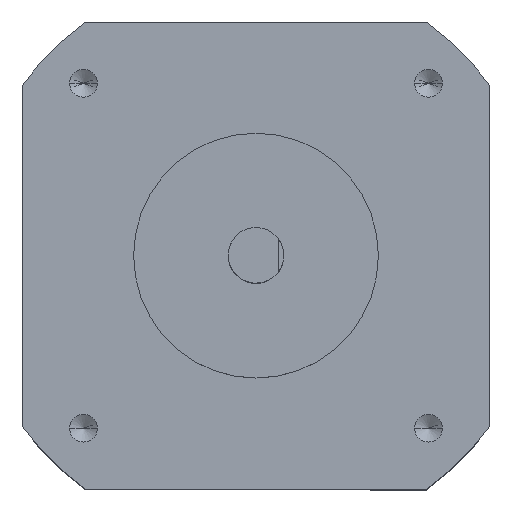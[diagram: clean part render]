
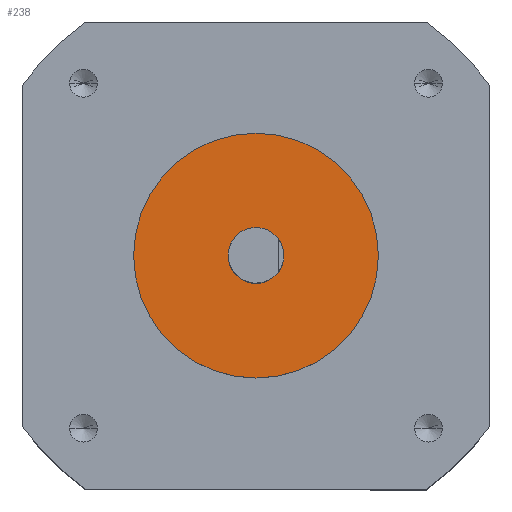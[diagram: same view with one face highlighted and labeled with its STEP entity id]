
A CAD part, top view. The second image highlights one B-rep face of the part: STEP entity #238.
In plain terms, the highlighted planar face has unit normal (0, 0, 1).
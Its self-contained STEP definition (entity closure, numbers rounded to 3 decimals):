
#97 = EDGE_LOOP ( 'NONE', ( #1718, #410 ) ) ;
#238 = ADVANCED_FACE ( 'NONE', ( #3137, #3225 ), #1978, .T. ) ;
#311 = EDGE_CURVE ( 'NONE', #1949, #585, #1521, .T. ) ;
#410 = ORIENTED_EDGE ( 'NONE', *, *, #311, .T. ) ;
#475 = DIRECTION ( 'NONE',  ( 0., 0., 1. ) ) ;
#563 = AXIS2_PLACEMENT_3D ( 'NONE', #1477, #475, #2222 ) ;
#585 = VERTEX_POINT ( 'NONE', #2246 ) ;
#649 = DIRECTION ( 'NONE',  ( 0., 0., -1. ) ) ;
#688 = CARTESIAN_POINT ( 'NONE',  ( 0., 0., 2. ) ) ;
#752 = EDGE_CURVE ( 'NONE', #2677, #2149, #2359, .T. ) ;
#935 = EDGE_CURVE ( 'NONE', #585, #1949, #1330, .T. ) ;
#941 = DIRECTION ( 'NONE',  ( 1., 0., 0. ) ) ;
#1045 = CARTESIAN_POINT ( 'NONE',  ( 0., 0., 2. ) ) ;
#1047 = CIRCLE ( 'NONE', #2934, 11. ) ;
#1065 = EDGE_LOOP ( 'NONE', ( #3290, #1432 ) ) ;
#1112 = CARTESIAN_POINT ( 'NONE',  ( 11., 0., 2. ) ) ;
#1287 = DIRECTION ( 'NONE',  ( 1., 0., 0. ) ) ;
#1330 = CIRCLE ( 'NONE', #1901, 2.5 ) ;
#1432 = ORIENTED_EDGE ( 'NONE', *, *, #2938, .T. ) ;
#1468 = AXIS2_PLACEMENT_3D ( 'NONE', #1045, #2799, #1287 ) ;
#1477 = CARTESIAN_POINT ( 'NONE',  ( 0., 0., 2. ) ) ;
#1484 = CARTESIAN_POINT ( 'NONE',  ( 0., 0., 2. ) ) ;
#1521 = CIRCLE ( 'NONE', #2240, 2.5 ) ;
#1718 = ORIENTED_EDGE ( 'NONE', *, *, #935, .T. ) ;
#1731 = DIRECTION ( 'NONE',  ( 1., 0., 0. ) ) ;
#1901 = AXIS2_PLACEMENT_3D ( 'NONE', #1484, #3264, #1731 ) ;
#1949 = VERTEX_POINT ( 'NONE', #2420 ) ;
#1978 = PLANE ( 'NONE',  #563 ) ;
#2133 = CARTESIAN_POINT ( 'NONE',  ( 0., 0., 2. ) ) ;
#2149 = VERTEX_POINT ( 'NONE', #1112 ) ;
#2222 = DIRECTION ( 'NONE',  ( 1., 0., 0. ) ) ;
#2240 = AXIS2_PLACEMENT_3D ( 'NONE', #2133, #649, #2394 ) ;
#2246 = CARTESIAN_POINT ( 'NONE',  ( -2.5, 0., 2. ) ) ;
#2359 = CIRCLE ( 'NONE', #1468, 11. ) ;
#2394 = DIRECTION ( 'NONE',  ( 1., 0., 0. ) ) ;
#2420 = CARTESIAN_POINT ( 'NONE',  ( 2.5, 0., 2. ) ) ;
#2423 = DIRECTION ( 'NONE',  ( 0., 0., 1. ) ) ;
#2677 = VERTEX_POINT ( 'NONE', #3168 ) ;
#2799 = DIRECTION ( 'NONE',  ( 0., 0., 1. ) ) ;
#2934 = AXIS2_PLACEMENT_3D ( 'NONE', #688, #2423, #941 ) ;
#2938 = EDGE_CURVE ( 'NONE', #2149, #2677, #1047, .T. ) ;
#3137 = FACE_OUTER_BOUND ( 'NONE', #1065, .T. ) ;
#3168 = CARTESIAN_POINT ( 'NONE',  ( -11., 0., 2. ) ) ;
#3225 = FACE_BOUND ( 'NONE', #97, .T. ) ;
#3264 = DIRECTION ( 'NONE',  ( 0., 0., -1. ) ) ;
#3290 = ORIENTED_EDGE ( 'NONE', *, *, #752, .T. ) ;
